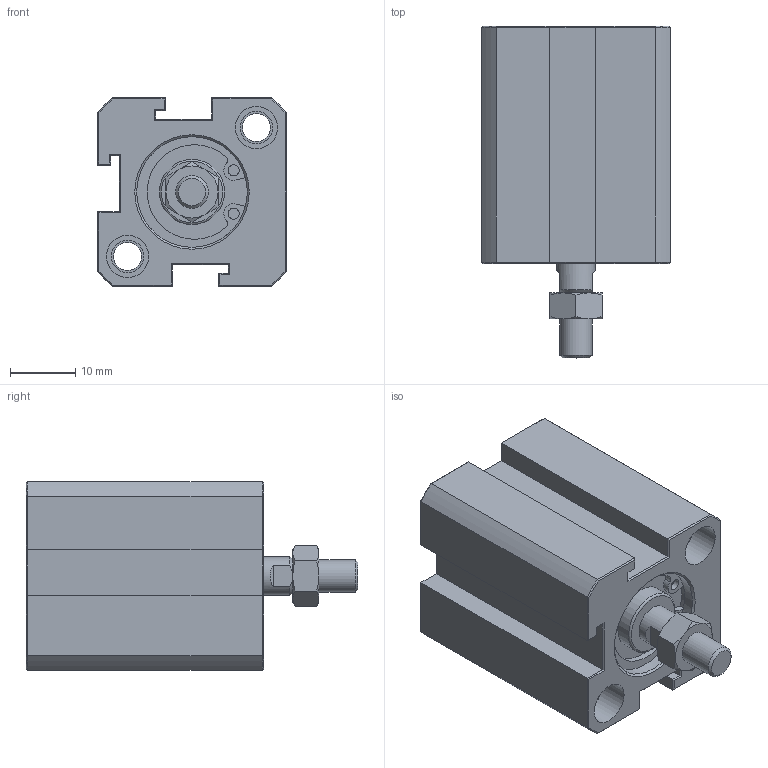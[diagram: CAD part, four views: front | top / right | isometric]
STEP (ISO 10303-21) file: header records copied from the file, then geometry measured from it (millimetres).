
FILE_DESCRIPTION(/* description */ (''),/* implementation_level */ '2;1');
FILE_NAME(/* name */ 'AJC-SDM16X5W',/* time_stamp */ '2019-06-20T15:00:01+08:00',/* author */ ('JEFF HUANG'),/* organization */ ('TAIWAN AMAC CLAMP INDUSTRIAL CO., LTD.'),/* preprocessor_version */ 'ST-DEVELOPER v16.7',/* originating_system */ 'DEX',/* authorisation */ $);
FILE_SCHEMA (('AUTOMOTIVE_DESIGN {1 0 10303 214 3 1 1}'));
Length unit declared in the file: millimetre
Products named in the file (1): AJC-SDM16X5W
Bounding box: 29 x 51 x 29 mm (x, y, z)
Volume: 25437.7 mm3; surface area: 8653.4 mm2
Topology: 1 solids, 1 shells, 172 faces, 377 edges, 228 vertices
Faces by surface type: plane 107, cylinder 38, cone 25, torus 2
Full cylindrical faces by diameter (mm): 1.7 x4, 4.3 x2, 5 x7, 6 x1, 6.5 x4, 10 x2, 17 x2
Entity records: 5726 total; most frequent: CARTESIAN_POINT 883, DIRECTION 750, ORIENTED_EDGE 688, EDGE_CURVE 344, AXIS2_PLACEMENT_3D 279, EDGE_LOOP 224, FACE_BOUND 224, VERTEX_POINT 222
